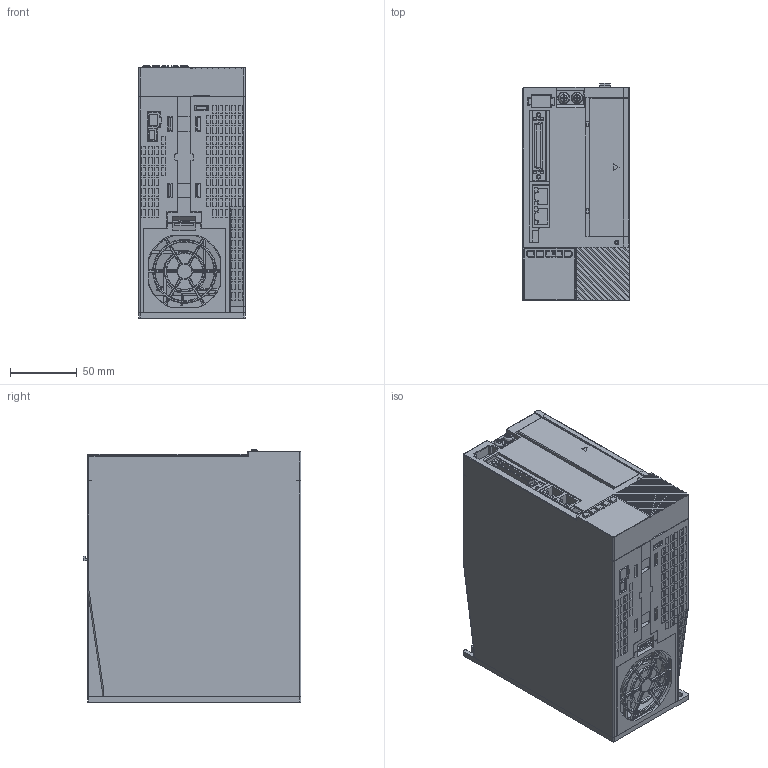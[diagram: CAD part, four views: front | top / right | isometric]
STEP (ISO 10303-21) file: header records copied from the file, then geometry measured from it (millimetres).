
FILE_DESCRIPTION((''),'2;1');
FILE_NAME('REP0001_SW0001','2021-09-03T',('Administrator'),(''),'PRO/ENGINEER BY PARAMETRIC TECHNOLOGY CORPORATION, 2010280','PRO/ENGINEER BY PARAMETRIC TECHNOLOGY CORPORATION, 2010280','');
FILE_SCHEMA(('CONFIG_CONTROL_DESIGN'));
Products named in the file (1): REP0001_SW0001
Bounding box: 80 x 163.3 x 189.3 mm (x, y, z)
Volume: 2105452.3 mm3; surface area: 291903.4 mm2
Topology: 1 solids, 1 shells, 3268 faces, 9137 edges, 6010 vertices
Faces by surface type: plane 2404, cylinder 756, cone 37, torus 35, bspline 29, sphere 7
Entity records: 113694 total; most frequent: CARTESIAN_POINT 28984, ORIENTED_EDGE 18260, DIRECTION 16478, EDGE_CURVE 9130, VECTOR 7278, LINE 7278, VERTEX_POINT 6010, AXIS2_PLACEMENT_3D 4600
